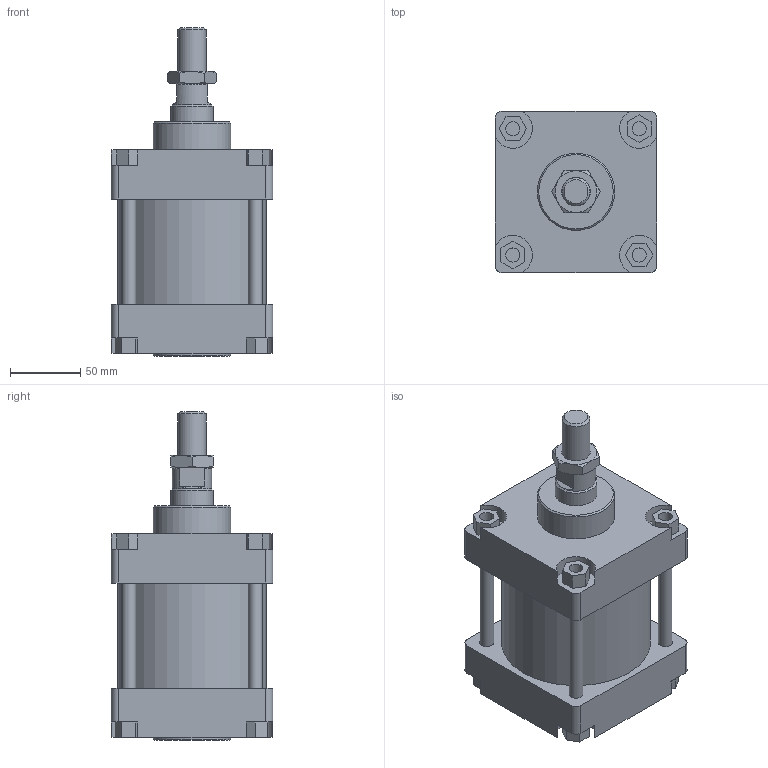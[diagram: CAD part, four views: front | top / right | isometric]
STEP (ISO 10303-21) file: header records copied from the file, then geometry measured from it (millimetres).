
FILE_DESCRIPTION(/* description */ (''),/* implementation_level */ '2;1');
FILE_NAME(/* name */ 'I:\Area Tecnica\Disegni\VARIE-3D\Componenti\CSP\Ø100\130#_100_####_###\130#_100_0000_01A.stp',/* time_stamp */ '2016-11-24T13:50:10+01:00',/* author */ ('Maniean1'),/* organization */ ('Pneumax S.p.A.'),/* preprocessor_version */ 'ST-DEVELOPER v15.2',/* originating_system */ 'Autodesk Inventor 2014',/* authorisation */ '');
FILE_SCHEMA (('AUTOMOTIVE_DESIGN { 1 0 10303 214 3 1 1 }'));
Length unit declared in the file: millimetre
Products named in the file (6): C_130#_100_0000; Testata anteriore_100; Testata posteriore_100; S_130#_100_0000_01A; 130#_100_18F; 130#_100_0000_01A
Bounding box: 115 x 115 x 234 mm (x, y, z)
Volume: 1605383.7 mm3; surface area: 223937 mm2
Topology: 9 solids, 9 shells, 162 faces, 380 edges, 249 vertices
Faces by surface type: plane 105, cylinder 42, cone 15
Full cylindrical faces by diameter (mm): 10 x12, 18.376 x1, 18.5 x1, 19 x2, 20 x1, 28 x1, 30 x3, 55 x2, 100 x2, 106 x1
Entity records: 4530 total; most frequent: CARTESIAN_POINT 785, DIRECTION 764, ORIENTED_EDGE 672, EDGE_CURVE 336, AXIS2_PLACEMENT_3D 271, VERTEX_POINT 244, EDGE_LOOP 236, LINE 222
